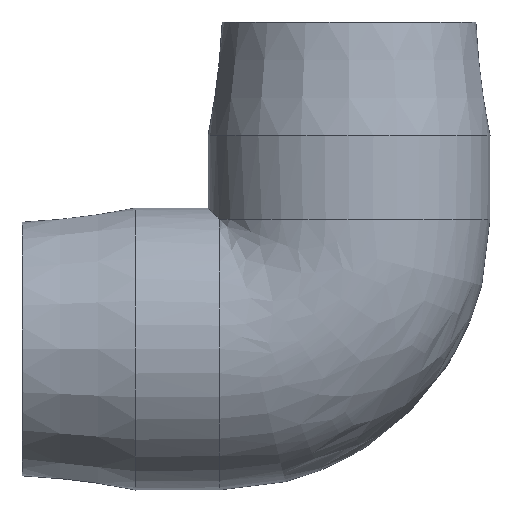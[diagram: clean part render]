
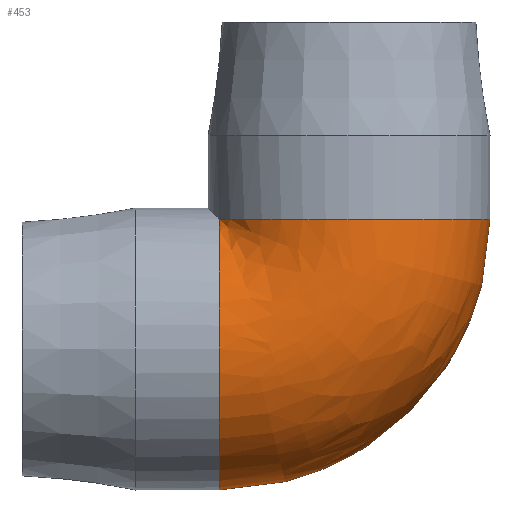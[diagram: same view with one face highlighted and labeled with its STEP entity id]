
A CAD part, front view. The second image highlights one B-rep face of the part: STEP entity #453.
In plain terms, the highlighted free-form (B-spline) face has degree [2, 2] with [9, 3] control points.
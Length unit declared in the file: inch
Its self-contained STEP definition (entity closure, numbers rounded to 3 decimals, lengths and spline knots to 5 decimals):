
#27=(
BOUNDED_SURFACE()
B_SPLINE_SURFACE(2,2,((#763,#764,#765),(#766,#767,#768),(#769,#770,#771),
(#772,#773,#774),(#775,#776,#777),(#778,#779,#780),(#781,#782,#783),(#784,
#785,#786),(#787,#788,#789)),.UNSPECIFIED.,.F.,.F.,.F.)
B_SPLINE_SURFACE_WITH_KNOTS((3,2,2,2,3),(3,3),(-2.73998,-1.36999,
0.,1.36999,2.73998),(0.,1.5708),
 .UNSPECIFIED.)
GEOMETRIC_REPRESENTATION_ITEM()
RATIONAL_B_SPLINE_SURFACE(((1.,0.707,1.),(0.774,
0.548,0.774),(1.,0.707,1.),(0.774,
0.548,0.774),(1.,0.707,1.),(0.774,
0.548,0.774),(1.,0.707,1.),(0.774,
0.548,0.774),(1.,0.707,1.)))
REPRESENTATION_ITEM('')
SURFACE()
);
#88=FACE_OUTER_BOUND('',#120,.T.);
#120=EDGE_LOOP('',(#323,#324,#325,#326));
#164=CIRCLE('',#513,1.615);
#165=CIRCLE('',#514,1.615);
#166=CIRCLE('',#515,1.615);
#167=CIRCLE('',#516,1.615);
#207=VERTEX_POINT('',#790);
#208=VERTEX_POINT('',#791);
#209=VERTEX_POINT('',#793);
#210=VERTEX_POINT('',#795);
#255=EDGE_CURVE('',#207,#208,#164,.T.);
#256=EDGE_CURVE('',#208,#209,#165,.T.);
#257=EDGE_CURVE('',#209,#210,#166,.T.);
#258=EDGE_CURVE('',#210,#207,#167,.T.);
#323=ORIENTED_EDGE('',*,*,#255,.T.);
#324=ORIENTED_EDGE('',*,*,#256,.T.);
#325=ORIENTED_EDGE('',*,*,#257,.T.);
#326=ORIENTED_EDGE('',*,*,#258,.T.);
#453=ADVANCED_FACE('',(#88),#27,.F.);
#513=AXIS2_PLACEMENT_3D('',#792,#606,#607);
#514=AXIS2_PLACEMENT_3D('',#794,#608,#609);
#515=AXIS2_PLACEMENT_3D('',#796,#610,#611);
#516=AXIS2_PLACEMENT_3D('',#797,#612,#613);
#606=DIRECTION('center_axis',(0.,0.,
-1.));
#607=DIRECTION('ref_axis',(-1.,0.,0.));
#608=DIRECTION('center_axis',(0.,0.,
-1.));
#609=DIRECTION('ref_axis',(-1.,0.,0.));
#610=DIRECTION('center_axis',(1.,0.,0.));
#611=DIRECTION('ref_axis',(0.,0.,-1.));
#612=DIRECTION('center_axis',(1.,0.,0.));
#613=DIRECTION('ref_axis',(0.,0.,-1.));
#763=CARTESIAN_POINT('Ctrl Pts',(-1.4865,0.6313,1.4865));
#764=CARTESIAN_POINT('Ctrl Pts',(-1.4865,0.6313,1.4865));
#765=CARTESIAN_POINT('Ctrl Pts',(-1.4865,0.6313,1.4865));
#766=CARTESIAN_POINT('Ctrl Pts',(-1.4865,1.84571,0.97075));
#767=CARTESIAN_POINT('Ctrl Pts',(-0.97075,1.84571,0.97075));
#768=CARTESIAN_POINT('Ctrl Pts',(-0.97075,1.84571,1.4865));
#769=CARTESIAN_POINT('Ctrl Pts',(-1.4865,1.58255,-0.32212));
#770=CARTESIAN_POINT('Ctrl Pts',(0.32212,1.58255,-0.32212));
#771=CARTESIAN_POINT('Ctrl Pts',(0.32212,1.58255,1.4865));
#772=CARTESIAN_POINT('Ctrl Pts',(-1.4865,1.31939,-1.615));
#773=CARTESIAN_POINT('Ctrl Pts',(1.615,1.31939,-1.615));
#774=CARTESIAN_POINT('Ctrl Pts',(1.615,1.31939,1.4865));
#775=CARTESIAN_POINT('Ctrl Pts',(-1.4865,0.,-1.615));
#776=CARTESIAN_POINT('Ctrl Pts',(1.615,0.,-1.615));
#777=CARTESIAN_POINT('Ctrl Pts',(1.615,0.,1.4865));
#778=CARTESIAN_POINT('Ctrl Pts',(-1.4865,-1.31939,-1.615));
#779=CARTESIAN_POINT('Ctrl Pts',(1.615,-1.31939,-1.615));
#780=CARTESIAN_POINT('Ctrl Pts',(1.615,-1.31939,1.4865));
#781=CARTESIAN_POINT('Ctrl Pts',(-1.4865,-1.58255,-0.32212));
#782=CARTESIAN_POINT('Ctrl Pts',(0.32212,-1.58255,-0.32212));
#783=CARTESIAN_POINT('Ctrl Pts',(0.32212,-1.58255,1.4865));
#784=CARTESIAN_POINT('Ctrl Pts',(-1.4865,-1.84571,0.97075));
#785=CARTESIAN_POINT('Ctrl Pts',(-0.97075,-1.84571,0.97075));
#786=CARTESIAN_POINT('Ctrl Pts',(-0.97075,-1.84571,1.4865));
#787=CARTESIAN_POINT('Ctrl Pts',(-1.4865,-0.6313,1.4865));
#788=CARTESIAN_POINT('Ctrl Pts',(-1.4865,-0.6313,1.4865));
#789=CARTESIAN_POINT('Ctrl Pts',(-1.4865,-0.6313,1.4865));
#790=CARTESIAN_POINT('',(-1.4865,0.6313,1.4865));
#791=CARTESIAN_POINT('',(0.,-1.615,1.4865));
#792=CARTESIAN_POINT('Origin',(0.,0.,
1.4865));
#793=CARTESIAN_POINT('',(-1.4865,-0.6313,1.4865));
#794=CARTESIAN_POINT('Origin',(0.,0.,
1.4865));
#795=CARTESIAN_POINT('',(-1.4865,-1.615,0.));
#796=CARTESIAN_POINT('Origin',(-1.4865,0.,0.));
#797=CARTESIAN_POINT('Origin',(-1.4865,0.,0.));
